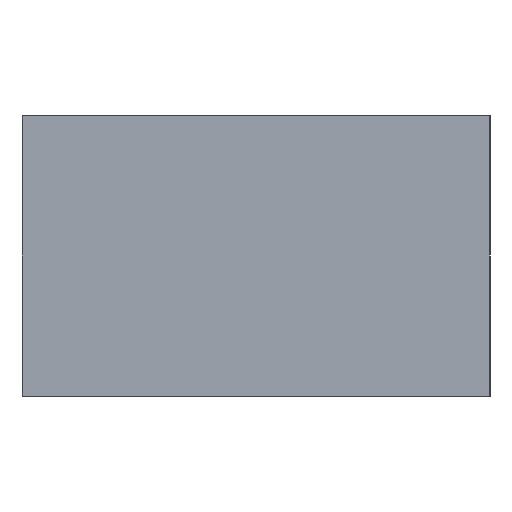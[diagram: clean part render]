
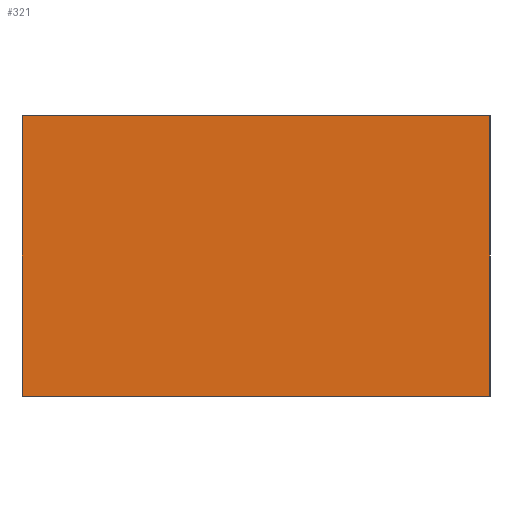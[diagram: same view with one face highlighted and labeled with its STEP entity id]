
A CAD part, front view. The second image highlights one B-rep face of the part: STEP entity #321.
In plain terms, the highlighted planar face has unit normal (0, -1, 0).
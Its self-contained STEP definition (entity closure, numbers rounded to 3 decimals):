
#65 = EDGE_CURVE ( 'NONE', #2840, #171, #1336, .T. ) ;
#108 = ORIENTED_EDGE ( 'NONE', *, *, #65, .F. ) ;
#123 = VERTEX_POINT ( 'NONE', #1554 ) ;
#157 = EDGE_CURVE ( 'NONE', #123, #316, #1732, .T. ) ;
#171 = VERTEX_POINT ( 'NONE', #1807 ) ;
#197 = EDGE_CURVE ( 'NONE', #316, #171, #2083, .T. ) ;
#235 = ORIENTED_EDGE ( 'NONE', *, *, #197, .T. ) ;
#299 = EDGE_LOOP ( 'NONE', ( #235, #108, #2447, #1439 ) ) ;
#316 = VERTEX_POINT ( 'NONE', #2501 ) ;
#321 = ADVANCED_FACE ( 'NONE', ( #2523 ), #2524, .F. ) ;
#1233 = CARTESIAN_POINT ( 'NONE',  ( 125., 0., 150. ) ) ;
#1336 = LINE ( 'NONE', #1337, #1338 ) ;
#1337 = CARTESIAN_POINT ( 'NONE',  ( 125., 0., 150. ) ) ;
#1338 = VECTOR ( 'NONE', #1339, 1000. ) ;
#1339 = DIRECTION ( 'NONE',  ( 0., 0., -1. ) ) ;
#1439 = ORIENTED_EDGE ( 'NONE', *, *, #157, .T. ) ;
#1554 = CARTESIAN_POINT ( 'NONE',  ( -125., 0., 150. ) ) ;
#1732 = LINE ( 'NONE', #1733, #1734 ) ;
#1733 = CARTESIAN_POINT ( 'NONE',  ( -125., 0., 150. ) ) ;
#1734 = VECTOR ( 'NONE', #1735, 1000. ) ;
#1735 = DIRECTION ( 'NONE',  ( 0., 0., -1. ) ) ;
#1807 = CARTESIAN_POINT ( 'NONE',  ( 125., 0., 0. ) ) ;
#2083 = LINE ( 'NONE', #2084, #2085 ) ;
#2084 = CARTESIAN_POINT ( 'NONE',  ( 125., 0., 0. ) ) ;
#2085 = VECTOR ( 'NONE', #2086, 1000. ) ;
#2086 = DIRECTION ( 'NONE',  ( 1., 0., 0. ) ) ;
#2088 = LINE ( 'NONE', #2089, #2090 ) ;
#2089 = CARTESIAN_POINT ( 'NONE',  ( 125., 0., 150. ) ) ;
#2090 = VECTOR ( 'NONE', #2091, 1000. ) ;
#2091 = DIRECTION ( 'NONE',  ( 1., 0., 0. ) ) ;
#2116 = EDGE_CURVE ( 'NONE', #123, #2840, #2088, .T. ) ;
#2447 = ORIENTED_EDGE ( 'NONE', *, *, #2116, .F. ) ;
#2501 = CARTESIAN_POINT ( 'NONE',  ( -125., 0., 0. ) ) ;
#2523 = FACE_OUTER_BOUND ( 'NONE', #299, .T. ) ;
#2524 = PLANE ( 'NONE',  #2525 ) ;
#2525 = AXIS2_PLACEMENT_3D ( 'NONE', #2526, #2527, #2528 ) ;
#2526 = CARTESIAN_POINT ( 'NONE',  ( 125., 0., 150. ) ) ;
#2527 = DIRECTION ( 'NONE',  ( 0., 1., 0. ) ) ;
#2528 = DIRECTION ( 'NONE',  ( -1., 0., 0. ) ) ;
#2840 = VERTEX_POINT ( 'NONE', #1233 ) ;
